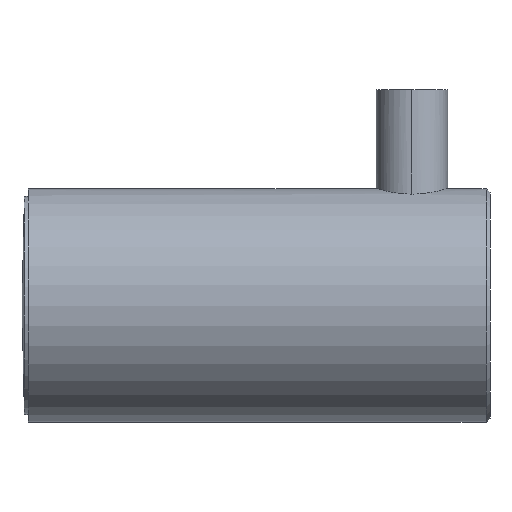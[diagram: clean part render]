
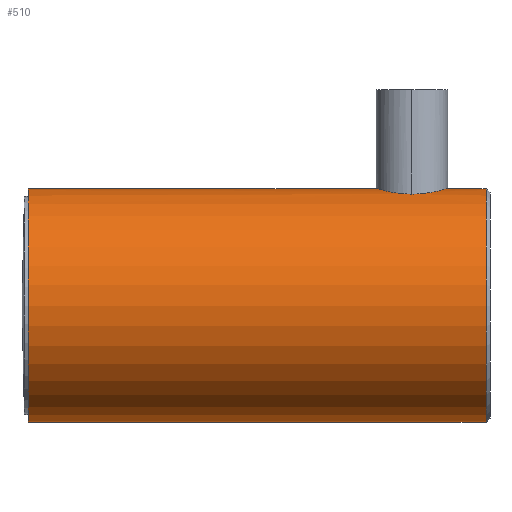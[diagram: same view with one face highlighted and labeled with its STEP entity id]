
A CAD part, left-side view. The second image highlights one B-rep face of the part: STEP entity #510.
In plain terms, the highlighted cylindrical face has radius 7.497 mm (diameter 14.994 mm), a partial arc.
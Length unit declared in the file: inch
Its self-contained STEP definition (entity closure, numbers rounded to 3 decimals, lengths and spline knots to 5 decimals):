
#14 = VECTOR ( 'NONE', #710, 39.37008 ) ;
#17 = LINE ( 'NONE', #711, #14 ) ;
#18 = LINE ( 'NONE', #695, #20 ) ;
#20 = VECTOR ( 'NONE', #715, 39.37008 ) ;
#34 = CYLINDRICAL_SURFACE ( 'NONE', #284, 0.29515 ) ;
#42 = FACE_OUTER_BOUND ( 'NONE', #155, .T. ) ;
#45 = LINE ( 'NONE', #617, #52 ) ;
#52 = VECTOR ( 'NONE', #618, 39.37008 ) ;
#114 = ORIENTED_EDGE ( 'NONE', *, *, #471, .T. ) ;
#116 = ORIENTED_EDGE ( 'NONE', *, *, #464, .T. ) ;
#119 = ORIENTED_EDGE ( 'NONE', *, *, #424, .F. ) ;
#123 = ORIENTED_EDGE ( 'NONE', *, *, #448, .F. ) ;
#155 = EDGE_LOOP ( 'NONE', ( #123, #119, #114, #168, #164, #177, #116 ) ) ;
#157 = CIRCLE ( 'NONE', #430, 0.29515 ) ;
#164 = ORIENTED_EDGE ( 'NONE', *, *, #446, .F. ) ;
#168 = ORIENTED_EDGE ( 'NONE', *, *, #417, .T. ) ;
#177 = ORIENTED_EDGE ( 'NONE', *, *, #440, .T. ) ;
#192 = CIRCLE ( 'NONE', #445, 0.29515 ) ;
#193 = VERTEX_POINT ( 'NONE', #548 ) ;
#194 = VERTEX_POINT ( 'NONE', #549 ) ;
#195 = VERTEX_POINT ( 'NONE', #550 ) ;
#196 = VERTEX_POINT ( 'NONE', #531 ) ;
#198 = VERTEX_POINT ( 'NONE', #532 ) ;
#284 = AXIS2_PLACEMENT_3D ( 'NONE', #316, #354, #306 ) ;
#306 = DIRECTION ( 'NONE',  ( 0., 0., -1. ) ) ;
#316 = CARTESIAN_POINT ( 'NONE',  ( 0., 0.04, 0. ) ) ;
#354 = DIRECTION ( 'NONE',  ( 0., -1., 0. ) ) ;
#403 = CARTESIAN_POINT ( 'NONE',  ( -0.09, 0.197, 0.28109 ) ) ;
#406 = CARTESIAN_POINT ( 'NONE',  ( 0., 0.107, 0.29515 ) ) ;
#410 = DIRECTION ( 'NONE',  ( 0., 0., 1. ) ) ;
#412 = DIRECTION ( 'NONE',  ( 0., 1., 0. ) ) ;
#413 = CARTESIAN_POINT ( 'NONE',  ( 0., 0.01, 0. ) ) ;
#417 = EDGE_CURVE ( 'NONE', #193, #194, #157, .T. ) ;
#424 = EDGE_CURVE ( 'NONE', #195, #198, #192, .T. ) ;
#430 = AXIS2_PLACEMENT_3D ( 'NONE', #413, #412, #410 ) ;
#440 = EDGE_CURVE ( 'NONE', #640, #635, #493, .T. ) ;
#445 = AXIS2_PLACEMENT_3D ( 'NONE', #656, #677, #691 ) ;
#446 = EDGE_CURVE ( 'NONE', #640, #194, #17, .T. ) ;
#448 = EDGE_CURVE ( 'NONE', #198, #196, #18, .T. ) ;
#464 = EDGE_CURVE ( 'NONE', #635, #196, #494, .T. ) ;
#471 = EDGE_CURVE ( 'NONE', #195, #193, #45, .T. ) ;
#493 = B_SPLINE_CURVE_WITH_KNOTS ( 'NONE', 3,
 ( #700, #694, #705, #708, #697, #702, #703, #713, #698, #701, #704, #699, #716, #717, #696, #709 ),
 .UNSPECIFIED., .F., .F.,
 ( 4, 2, 2, 2, 2, 2, 2, 4 ),
 ( 0.01078, 0.01123, 0.01168, 0.01258, 0.01303, 0.01348, 0.01393, 0.01438 ),
 .UNSPECIFIED. ) ;
#494 = B_SPLINE_CURVE_WITH_KNOTS ( 'NONE', 3,
 ( #588, #592, #556, #578, #579, #559, #601, #571, #599, #589, #560, #580, #562, #563, #581, #582 ),
 .UNSPECIFIED., .F., .F.,
 ( 4, 2, 2, 2, 2, 2, 2, 4 ),
 ( 0., 0.00045, 0.0009, 0.00135, 0.0018, 0.0027, 0.00315, 0.0036 ),
 .UNSPECIFIED. ) ;
#510 = ADVANCED_FACE ( 'NONE', ( #42 ), #34, .T. ) ;
#531 = CARTESIAN_POINT ( 'NONE',  ( 0., 0.287, 0.29515 ) ) ;
#532 = CARTESIAN_POINT ( 'NONE',  ( 0., 1.165, 0.29515 ) ) ;
#548 = CARTESIAN_POINT ( 'NONE',  ( 0., 0.01, -0.29515 ) ) ;
#549 = CARTESIAN_POINT ( 'NONE',  ( 0., 0.01, 0.29515 ) ) ;
#550 = CARTESIAN_POINT ( 'NONE',  ( 0., 1.165, -0.29515 ) ) ;
#556 = CARTESIAN_POINT ( 'NONE',  ( -0.08941, 0.20887, 0.28128 ) ) ;
#559 = CARTESIAN_POINT ( 'NONE',  ( -0.08082, 0.23704, 0.28388 ) ) ;
#560 = CARTESIAN_POINT ( 'NONE',  ( -0.04537, 0.27561, 0.29185 ) ) ;
#562 = CARTESIAN_POINT ( 'NONE',  ( -0.02342, 0.2841, 0.29428 ) ) ;
#563 = CARTESIAN_POINT ( 'NONE',  ( -0.01178, 0.28642, 0.29497 ) ) ;
#571 = CARTESIAN_POINT ( 'NONE',  ( -0.07152, 0.25195, 0.28637 ) ) ;
#578 = CARTESIAN_POINT ( 'NONE',  ( -0.0871, 0.22042, 0.28201 ) ) ;
#579 = CARTESIAN_POINT ( 'NONE',  ( -0.08535, 0.22616, 0.28255 ) ) ;
#580 = CARTESIAN_POINT ( 'NONE',  ( -0.02913, 0.28236, 0.29376 ) ) ;
#581 = CARTESIAN_POINT ( 'NONE',  ( -0.00591, 0.287, 0.29515 ) ) ;
#582 = CARTESIAN_POINT ( 'NONE',  ( 0., 0.287, 0.29515 ) ) ;
#588 = CARTESIAN_POINT ( 'NONE',  ( -0.09, 0.197, 0.28109 ) ) ;
#589 = CARTESIAN_POINT ( 'NONE',  ( -0.05536, 0.26891, 0.29004 ) ) ;
#592 = CARTESIAN_POINT ( 'NONE',  ( -0.09, 0.20299, 0.28109 ) ) ;
#599 = CARTESIAN_POINT ( 'NONE',  ( -0.06774, 0.25654, 0.2873 ) ) ;
#601 = CARTESIAN_POINT ( 'NONE',  ( -0.07805, 0.2422, 0.28466 ) ) ;
#617 = CARTESIAN_POINT ( 'NONE',  ( 0., 0.04, -0.29515 ) ) ;
#618 = DIRECTION ( 'NONE',  ( 0., -1., 0. ) ) ;
#635 = VERTEX_POINT ( 'NONE', #403 ) ;
#640 = VERTEX_POINT ( 'NONE', #406 ) ;
#656 = CARTESIAN_POINT ( 'NONE',  ( 0., 1.165, 0. ) ) ;
#677 = DIRECTION ( 'NONE',  ( 0., 1., 0. ) ) ;
#691 = DIRECTION ( 'NONE',  ( 0., 0., 1. ) ) ;
#694 = CARTESIAN_POINT ( 'NONE',  ( -0.00593, 0.107, 0.29515 ) ) ;
#695 = CARTESIAN_POINT ( 'NONE',  ( 0., 0.04, 0.29515 ) ) ;
#696 = CARTESIAN_POINT ( 'NONE',  ( -0.09, 0.19102, 0.28109 ) ) ;
#697 = CARTESIAN_POINT ( 'NONE',  ( -0.02914, 0.11165, 0.29376 ) ) ;
#698 = CARTESIAN_POINT ( 'NONE',  ( -0.07153, 0.14206, 0.28637 ) ) ;
#699 = CARTESIAN_POINT ( 'NONE',  ( -0.08534, 0.16782, 0.28255 ) ) ;
#700 = CARTESIAN_POINT ( 'NONE',  ( 0., 0.107, 0.29515 ) ) ;
#701 = CARTESIAN_POINT ( 'NONE',  ( -0.07806, 0.15181, 0.28466 ) ) ;
#702 = CARTESIAN_POINT ( 'NONE',  ( -0.0454, 0.11841, 0.29184 ) ) ;
#703 = CARTESIAN_POINT ( 'NONE',  ( -0.05538, 0.1251, 0.29003 ) ) ;
#704 = CARTESIAN_POINT ( 'NONE',  ( -0.08082, 0.15696, 0.28388 ) ) ;
#705 = CARTESIAN_POINT ( 'NONE',  ( -0.0118, 0.10758, 0.29497 ) ) ;
#708 = CARTESIAN_POINT ( 'NONE',  ( -0.0234, 0.10989, 0.29428 ) ) ;
#709 = CARTESIAN_POINT ( 'NONE',  ( -0.09, 0.197, 0.28109 ) ) ;
#710 = DIRECTION ( 'NONE',  ( 0., -1., 0. ) ) ;
#711 = CARTESIAN_POINT ( 'NONE',  ( 0., 0.04, 0.29515 ) ) ;
#713 = CARTESIAN_POINT ( 'NONE',  ( -0.06775, 0.13747, 0.2873 ) ) ;
#715 = DIRECTION ( 'NONE',  ( 0., -1., 0. ) ) ;
#716 = CARTESIAN_POINT ( 'NONE',  ( -0.08709, 0.17356, 0.28201 ) ) ;
#717 = CARTESIAN_POINT ( 'NONE',  ( -0.08941, 0.18513, 0.28128 ) ) ;
